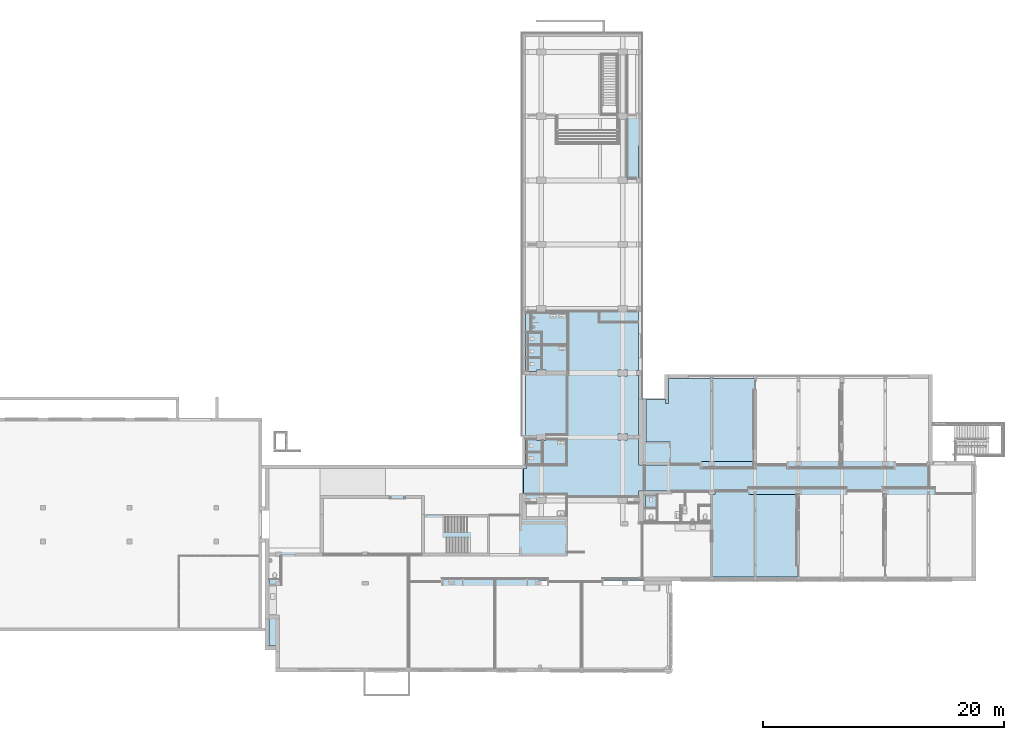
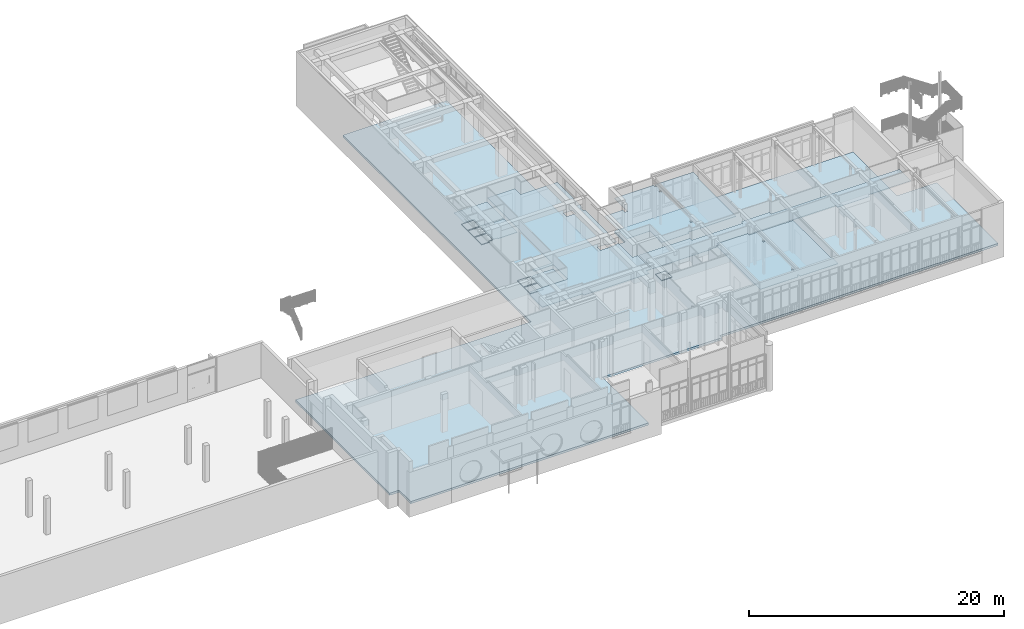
# One storey, part 72 of 135: 14 slabs.
"""IFC2X3 building model written with IfcOpenShell, lengths in millimetres."""

from ifc_helpers import new_model, entity, si_unit, converted_unit, derived_unit, money_unit, direction, frame, origin_with_axes, place, context, subcontext, project, spatial, faceted_brep, material, type_object, element, save


model = new_model("IFC2X3")

# Units and contexts
model_context = context("Model", 3, precision=0.01, world=origin_with_axes(), true_north=direction((0.0, 1.0)))
body_context = subcontext(model_context, "Body", "Model", "MODEL_VIEW")
ifc_project = project(units=[si_unit("LENGTHUNIT", "METRE", prefix="MILLI"), si_unit("AREAUNIT", "SQUARE_METRE"), si_unit("VOLUMEUNIT", "CUBIC_METRE"), converted_unit("PLANEANGLEUNIT", "DEGREE", entity("IfcPlaneAngleMeasure", 0.0174532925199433), si_unit("PLANEANGLEUNIT", "RADIAN"), dimensions=[0, 0, 0, 0, 0, 0, 0]), money_unit("EUR"), converted_unit("TIMEUNIT", "Year", entity("IfcTimeMeasure", 31557600.0), si_unit("TIMEUNIT", "SECOND"), dimensions=[0, 0, 1, 0, 0, 0, 0]), si_unit("MASSUNIT", "GRAM", prefix="KILO"), si_unit("THERMODYNAMICTEMPERATUREUNIT", "DEGREE_CELSIUS"), si_unit("LUMINOUSINTENSITYUNIT", "LUMEN"), si_unit("ENERGYUNIT", "JOULE", prefix="MEGA"), derived_unit("THERMALCONDUCTANCEUNIT", [(si_unit("POWERUNIT", "WATT"), 1), (si_unit("LENGTHUNIT", "METRE"), -1), (si_unit("THERMODYNAMICTEMPERATUREUNIT", "KELVIN"), -1)]), derived_unit("SPECIFICHEATCAPACITYUNIT", [(si_unit("ENERGYUNIT", "JOULE"), 1), (si_unit("MASSUNIT", "GRAM", prefix="KILO"), -1), (si_unit("THERMODYNAMICTEMPERATUREUNIT", "KELVIN"), -1)]), derived_unit("MASSDENSITYUNIT", [(si_unit("MASSUNIT", "GRAM", prefix="KILO"), 1), (si_unit("VOLUMEUNIT", "CUBIC_METRE"), -1)])], contexts=[model_context])

# Site, building, storey
site_placement = place(None, origin_with_axes())
site = spatial("IfcSite", under=ifc_project, at=site_placement, Name="Site", CompositionType="ELEMENT")
building_placement = place(site_placement, origin_with_axes())
building = spatial("IfcBuilding", under=site, at=building_placement, Name="Naam gebouw", CompositionType="ELEMENT")
storey_placement = place(building_placement, origin_with_axes())
storey = spatial("IfcBuildingStorey", under=building, at=storey_placement, Name="Begane grond N", CompositionType="ELEMENT", Elevation=0.0)

# Slabs
ifc_material_1 = material(Name="ALG - CONSTRUCTIEF VLOER")
slab_type_1 = type_object("IfcSlabType", Name="ALG Vloer 200", PredefinedType="NOTDEFINED")
slab_1_placement = place(storey_placement, frame((-770.0388143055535, 5261.796119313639, 0.0), z_axis=(0.0, 0.0, 1.0), x_axis=(1.0, 0.0, 0.0)))
element("IfcSlab", 1, at=slab_1_placement, inside=storey, type_object=slab_type_1, material=ifc_material_1, Name="_Vloer-x", PredefinedType="NOTDEFINED", context=body_context, shape_type="Brep", body=[
    faceted_brep([(0.0, 0.0, 0.0), (0.0, 0.0, -200.0), (870.0388622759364, 0.0, -200.0), (870.0388622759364, 0.0, 0.0), (0.0, 14754.11630578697, 0.0), (0.0, 14754.11630578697, -200.0), (21306.03881430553, 14754.11630578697, -200.0), (21306.03881430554, 44214.11630578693, -200.0), (30705.79457305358, 44214.11630578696, -200.0), (30676.03881430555, 22519.11630578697, -200.0), (30686.57098017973, 20499.10090675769, -200.0), (33170.03881430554, 20499.10090675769, -200.0), (33170.03881430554, 22244.11630578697, -200.0), (54770.03881430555, 22244.11630578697, -200.0), (54770.03881430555, 15329.11630578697, -200.0), (58370.03881430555, 15329.11630578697, -200.0), (58370.03881430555, 5729.116305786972, -200.0), (33170.03881430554, 5729.116305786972, -200.0), (33170.03881430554, 5395.377054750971, -200.0), (22390.03881430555, 5399.116298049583, -200.0), (22390.03881430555, -1816.127411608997, -200.0), (870.03886227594, -1816.127411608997, -200.0), (870.03886227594, -1816.127411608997, 0.0), (22390.03881430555, -1816.127411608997, 0.0), (22390.03881430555, 5399.116298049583, 0.0), (33170.03881430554, 5395.377054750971, 0.0), (33170.03881430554, 5729.116305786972, 0.0), (58370.03881430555, 5729.116305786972, 0.0), (58370.03881430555, 15329.11630578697, 0.0), (54770.03881430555, 15329.11630578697, 0.0), (54770.03881430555, 22244.11630578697, 0.0), (33170.03881430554, 22244.11630578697, 0.0), (33170.03881430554, 20499.10090675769, 0.0), (30686.57098017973, 20499.10090675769, 0.0), (30676.03881430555, 22519.11630578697, 0.0), (30705.79457305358, 44214.11630578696, 0.0), (21306.03881430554, 44214.11630578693, 0.0), (21306.03881430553, 14754.11630578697, 0.0)], [[[0, 1, 2, 3]], [[4, 5, 1, 0]], [[2, 1, 5, 6, 7, 8, 9, 10, 11, 12, 13, 14, 15, 16, 17, 18, 19, 20, 21]], [[3, 2, 21, 22]], [[4, 0, 3, 22, 23, 24, 25, 26, 27, 28, 29, 30, 31, 32, 33, 34, 35, 36, 37]], [[37, 6, 5, 4]], [[36, 7, 6, 37]], [[35, 8, 7, 36]], [[34, 9, 8, 35]], [[33, 10, 9, 34]], [[32, 11, 10, 33]], [[31, 12, 11, 32]], [[30, 13, 12, 31]], [[29, 14, 13, 30]], [[28, 15, 14, 29]], [[27, 16, 15, 28]], [[26, 17, 16, 27]], [[25, 18, 17, 26]], [[24, 19, 18, 25]], [[23, 20, 19, 24]], [[22, 21, 20, 23]]]),
])
ifc_material_2 = material(Name="ALG - BINNENAFWERKING")
slab_type_2 = type_object("IfcSlabType", Name="ALG - BINNENAFWERKING 40", PredefinedType="NOTDEFINED")
slab_2_placement = place(storey_placement, frame((29906.0, 22500.91242510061, 2690.0), z_axis=(0.0, 0.0, 1.0), x_axis=(1.0, 0.0, 0.0)))
element("IfcSlab", 2, at=slab_2_placement, inside=storey, type_object=slab_type_2, material=ifc_material_2, Name="_Vloer-x", PredefinedType="NOTDEFINED", context=body_context, shape_type="Brep", body=[
    faceted_brep([(-5902.999931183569, 0.0, 0.0), (-7660.000176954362, -0.0001196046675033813, 0.0), (-7660.000176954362, 275.0000000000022, 0.0), (-5869.457343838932, 275.0000000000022, 0.0), (-5856.957343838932, 275.0000000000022, 0.0), (-5856.957343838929, 5279.999999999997, 0.0), (-5792.187099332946, 5279.999999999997, 0.0), (-5792.187099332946, 10522.49999999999, 0.0), (-3300.000000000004, 10522.49999999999, 0.0), (-3300.000000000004, 9622.499999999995, 0.0), (0.0, 9622.499999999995, 0.0), (0.0, 5654.999999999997, 0.0), (-179.9999999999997, 5654.999999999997, 0.0), (-179.9999999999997, 5254.999999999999, 0.0), (0.000294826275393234, 5255.000131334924, 0.0), (0.0, 250.0, 0.0), (-899.99991727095, 250.0000022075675, 0.0), (-900.0000000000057, 375.0, 0.0), (-1700.000000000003, 375.0, 0.0), (-1700.000000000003, -125.0, 0.0), (-900.0000000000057, -125.0, 0.0), (-899.9996908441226, -0.000572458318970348, 0.0), (0.0, 0.0, 0.0), (0.0, -2199.999983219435, 0.0), (450.9999999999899, -2199.999983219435, 0.0), (450.9999999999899, -4350.000000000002, 0.0), (23.1870993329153, -4350.000000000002, 0.0), (23.1870993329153, -4772.499999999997, 0.0), (-5903.000000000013, -4772.499999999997, 0.0), (-5903.000000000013, -4588.661198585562, 0.0), (-5903.000000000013, -4576.16119858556, 0.0), (-9532.00000000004, -4576.16119858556, 0.0), (-9532.00000000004, -2485.581079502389, 0.0), (-9315.01098793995, -2484.998239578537, 0.0), (-9315.01098793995, -2237.498153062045, 0.0), (-5902.999931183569, -2237.498153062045, 0.0), (-1710.000000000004, 5717.499999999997, 0.0), (-1710.000000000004, 5192.499999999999, 0.0), (-890.0000000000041, 5192.499999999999, 0.0), (-890.0000000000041, 5717.499999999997, 0.0), (-5902.999931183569, 0.0, 40.00000000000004), (-7660.000176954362, -0.0001196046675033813, 40.00000000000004), (-7660.000176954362, 275.0000000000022, 40.00000000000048), (-5869.457343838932, 275.0000000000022, 40.00000000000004), (-5856.957343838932, 275.0000000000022, 40.00000000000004), (-5856.957343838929, 5279.999999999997, 40.00000000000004), (-5792.187099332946, 5279.999999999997, 40.00000000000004), (-5792.187099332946, 10522.49999999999, 40.00000000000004), (-3300.000000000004, 10522.49999999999, 40.00000000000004), (-3300.000000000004, 9622.499999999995, 40.00000000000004), (0.0, 9622.499999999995, 40.00000000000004), (0.0, 5654.999999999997, 40.00000000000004), (-179.9999999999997, 5654.999999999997, 40.00000000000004), (-179.9999999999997, 5254.999999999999, 40.00000000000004), (0.000294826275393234, 5255.000131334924, 40.00000000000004), (0.0, 250.0, 40.00000000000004), (-899.99991727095, 250.0000022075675, 40.00000000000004), (-900.0000000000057, 375.0, 40.00000000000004), (-1700.000000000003, 375.0, 40.00000000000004), (-1700.000000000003, -125.0, 40.00000000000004), (-900.0000000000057, -125.0, 40.00000000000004), (-899.9996908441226, -0.000572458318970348, 40.00000000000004), (0.0, 0.0, 40.00000000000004), (0.0, -2199.999983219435, 40.00000000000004), (450.9999999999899, -2199.999983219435, 40.00000000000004), (450.9999999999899, -4350.000000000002, 40.00000000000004), (23.1870993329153, -4350.000000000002, 40.00000000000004), (23.1870993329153, -4772.499999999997, 40.00000000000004), (-5903.000000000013, -4772.499999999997, 40.00000000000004), (-5903.000000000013, -4588.661198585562, 40.00000000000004), (-5903.000000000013, -4576.16119858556, 40.00000000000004), (-9532.00000000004, -4576.16119858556, 40.00000000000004), (-9532.00000000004, -2485.581079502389, 40.00000000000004), (-9315.01098793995, -2484.998239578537, 40.00000000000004), (-9315.01098793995, -2237.498153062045, 40.00000000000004), (-5902.999931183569, -2237.498153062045, 40.00000000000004), (-1710.000000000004, 5717.499999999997, 40.00000000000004), (-1710.000000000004, 5192.499999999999, 40.00000000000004), (-890.0000000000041, 5192.499999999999, 40.00000000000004), (-890.0000000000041, 5717.499999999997, 40.00000000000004)], [[[0, 1, 2, 3, 4, 5, 6, 7, 8, 9, 10, 11, 12, 13, 14, 15, 16, 17, 18, 19, 20, 21, 22, 23, 24, 25, 26, 27, 28, 29, 30, 31, 32, 33, 34, 35], [36, 37, 38, 39]], [[0, 40, 41, 1]], [[1, 41, 42, 2]], [[3, 2, 42, 43]], [[44, 4, 3, 43]], [[5, 4, 44, 45]], [[46, 6, 5, 45]], [[6, 46, 47, 7]], [[7, 47, 48, 8]], [[8, 48, 49, 9]], [[9, 49, 50, 10]], [[10, 50, 51, 11]], [[11, 51, 52, 12]], [[12, 52, 53, 13]], [[13, 53, 54, 14]], [[14, 54, 55, 15]], [[15, 55, 56, 16]], [[16, 56, 57, 17]], [[17, 57, 58, 18]], [[18, 58, 59, 19]], [[19, 59, 60, 20]], [[20, 60, 61, 21]], [[21, 61, 62, 22]], [[22, 62, 63, 23]], [[23, 63, 64, 24]], [[24, 64, 65, 25]], [[25, 65, 66, 26]], [[26, 66, 67, 27]], [[27, 67, 68, 28]], [[29, 28, 68, 69]], [[70, 30, 29, 69]], [[71, 31, 30, 70]], [[31, 71, 72, 32]], [[32, 72, 73, 33]], [[33, 73, 74, 34]], [[34, 74, 75, 35]], [[35, 75, 40, 0]], [[36, 76, 77, 37]], [[37, 77, 78, 38]], [[38, 78, 79, 39]], [[39, 79, 76, 36]], [[45, 44, 43, 42, 41, 40, 75, 74, 73, 72, 71, 70, 69, 68, 67, 66, 65, 64, 63, 62, 61, 60, 59, 58, 57, 56, 55, 54, 53, 52, 51, 50, 49, 48, 47, 46], [78, 77, 76, 79]]]),
])
slab_3_placement = place(storey_placement, frame((21935.99999999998, 30318.41242510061, 2400.0), z_axis=(0.0, 0.0, 1.0), x_axis=(1.0, 0.0, 0.0)))
element("IfcSlab", 3, at=slab_3_placement, inside=storey, type_object=slab_type_2, material=ifc_material_2, Name="_Vloer-x", PredefinedType="NOTDEFINED", context=body_context, shape_type="Brep", body=[
    faceted_brep([(0.0, 0.0, 40.00000000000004), (0.0, 0.0, 0.0), (2077.81290066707, 0.0, 0.0), (2077.81290066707, 0.0, 40.00000000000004), (0.0, 1050.000000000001, 40.00000000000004), (0.0, 1050.000000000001, 0.0), (-900.0000000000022, 1050.000000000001, 0.0), (-900.0000000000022, 2604.999999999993, 0.0), (2077.81290066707, 2604.999999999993, 0.0), (2077.81290066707, 2604.999999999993, 40.00000000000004), (-900.0000000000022, 2604.999999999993, 40.00000000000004), (-900.0000000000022, 1050.000000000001, 40.00000000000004)], [[[0, 1, 2, 3]], [[4, 5, 1, 0]], [[2, 1, 5, 6, 7, 8]], [[3, 2, 8, 9]], [[4, 0, 3, 9, 10, 11]], [[11, 6, 5, 4]], [[10, 7, 6, 11]], [[9, 8, 7, 10]]]),
])
slab_4_placement = place(storey_placement, frame((22246.0, 28130.91242510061, 2400.0), z_axis=(0.0, 0.0, 1.0), x_axis=(1.0, 0.0, 0.0)))
element("IfcSlab", 4, at=slab_4_placement, inside=storey, type_object=slab_type_2, material=ifc_material_2, Name="_Vloer-x", PredefinedType="NOTDEFINED", context=body_context, shape_type="Brep", body=[
    faceted_brep([(0.0, 0.0, 40.00000000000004), (0.0, 0.0, 0.0), (1767.812900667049, 0.0, 0.0), (1767.812900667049, 0.0, 40.00000000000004), (0.0, 87.49999999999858, 40.00000000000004), (0.0, 87.49999999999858, 0.0), (-310.00000000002, 87.49999999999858, 0.0), (-310.00000000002, 2087.499999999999, 0.0), (1767.812900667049, 2087.499999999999, 0.0), (1767.812900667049, 2087.499999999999, 40.00000000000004), (-310.00000000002, 2087.499999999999, 40.00000000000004), (-310.00000000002, 87.49999999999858, 40.00000000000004)], [[[0, 1, 2, 3]], [[4, 5, 1, 0]], [[2, 1, 5, 6, 7, 8]], [[3, 2, 8, 9]], [[4, 0, 3, 9, 10, 11]], [[11, 6, 5, 4]], [[10, 7, 6, 11]], [[9, 8, 7, 10]]]),
])
slab_5_placement = place(storey_placement, frame((20735.99999999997, 30318.41242510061, 2400.0), z_axis=(0.0, 0.0, 1.0), x_axis=(1.0, 0.0, 0.0)))
element("IfcSlab", 5, at=slab_5_placement, inside=storey, type_object=slab_type_2, material=ifc_material_2, Name="_Vloer-x", PredefinedType="NOTDEFINED", context=body_context, shape_type="Brep", body=[
    faceted_brep([(0.0, 0.0, 40.00000000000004), (0.0, 0.0, 0.0), (1100.000000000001, 0.0, 0.0), (1100.000000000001, 0.0, 40.00000000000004), (0.0, 949.9999999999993, 40.00000000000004), (0.0, 949.9999999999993, 0.0), (1100.000000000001, 949.9999999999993, 0.0), (1100.000000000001, 949.9999999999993, 40.00000000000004)], [[[0, 1, 2, 3]], [[4, 5, 1, 0]], [[2, 1, 5, 6]], [[3, 2, 6, 7]], [[4, 0, 3, 7]], [[7, 6, 5, 4]]]),
])
slab_6_placement = place(storey_placement, frame((20735.99999999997, 30218.41242510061, 2400.0), z_axis=(0.0, 0.0, 1.0), x_axis=(1.0, 0.0, 0.0)))
element("IfcSlab", 6, at=slab_6_placement, inside=storey, type_object=slab_type_2, material=ifc_material_2, Name="_Vloer-x", PredefinedType="NOTDEFINED", context=body_context, shape_type="Brep", body=[
    faceted_brep([(0.0, 0.0, 40.00000000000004), (0.0, 0.0, 0.0), (0.0, -949.9999999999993, 0.0), (0.0, -949.9999999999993, 40.00000000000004), (1100.000000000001, 0.0, 40.00000000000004), (1100.000000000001, 0.0, 0.0), (1100.000000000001, -949.9999999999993, 0.0), (1100.000000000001, -949.9999999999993, 40.00000000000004)], [[[0, 1, 2, 3]], [[4, 5, 1, 0]], [[2, 1, 5, 6]], [[3, 2, 6, 7]], [[4, 0, 3, 7]], [[7, 6, 5, 4]]]),
])
slab_7_placement = place(storey_placement, frame((20735.99999999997, 28080.91242510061, 2400.0), z_axis=(0.0, 0.0, 1.0), x_axis=(1.0, 0.0, 0.0)))
element("IfcSlab", 7, at=slab_7_placement, inside=storey, type_object=slab_type_2, material=ifc_material_2, Name="_Vloer-x", PredefinedType="NOTDEFINED", context=body_context, shape_type="Brep", body=[
    faceted_brep([(0.0, 0.0, 40.00000000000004), (0.0, 0.0, 0.0), (690.0000000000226, 0.0, 0.0), (690.0000000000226, 0.0, 40.00000000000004), (0.0, 1087.499999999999, 40.00000000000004), (0.0, 1087.499999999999, 0.0), (1100.000000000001, 1087.499999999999, 0.0), (1100.000000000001, 137.4999999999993, 0.0), (690.0000000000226, 137.4999999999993, 0.0), (690.0000000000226, 137.4999999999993, 40.00000000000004), (1100.000000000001, 137.4999999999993, 40.00000000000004), (1100.000000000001, 1087.499999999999, 40.00000000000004)], [[[0, 1, 2, 3]], [[4, 5, 1, 0]], [[2, 1, 5, 6, 7, 8]], [[3, 2, 8, 9]], [[4, 0, 3, 9, 10, 11]], [[11, 6, 5, 4]], [[10, 7, 6, 11]], [[9, 8, 7, 10]]]),
])
slab_8_placement = place(storey_placement, frame((21985.99999999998, 20363.41242510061, 2400.0), z_axis=(0.0, 0.0, 1.0), x_axis=(1.0, 0.0, 0.0)))
element("IfcSlab", 8, at=slab_8_placement, inside=storey, type_object=slab_type_2, material=ifc_material_2, Name="_Vloer-x", PredefinedType="NOTDEFINED", context=body_context, shape_type="Brep", body=[
    faceted_brep([(0.0, 0.0, 40.00000000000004), (0.0, 0.0, 0.0), (1917.000068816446, 0.0, 0.0), (1917.000068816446, 0.0, 40.00000000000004), (0.0, 2000.0, 40.00000000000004), (0.0, 2000.0, 0.0), (260.0000000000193, 2000.0, 0.0), (259.9999790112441, 2037.499988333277, 0.0), (1917.000068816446, 2037.499988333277, 0.0), (1917.000068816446, 2037.499988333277, 40.00000000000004), (259.9999790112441, 2037.499988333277, 40.00000000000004), (260.0000000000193, 2000.0, 40.00000000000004)], [[[0, 1, 2, 3]], [[4, 5, 1, 0]], [[2, 1, 5, 6, 7, 8]], [[3, 2, 8, 9]], [[4, 0, 3, 9, 10, 11]], [[11, 6, 5, 4]], [[10, 7, 6, 11]], [[9, 8, 7, 10]]]),
])
slab_9_placement = place(storey_placement, frame((20685.99999999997, 21313.41242510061, 2400.0), z_axis=(0.0, 0.0, 1.0), x_axis=(1.0, 0.0, 0.0)))
element("IfcSlab", 9, at=slab_9_placement, inside=storey, type_object=slab_type_2, material=ifc_material_2, Name="_Vloer-x", PredefinedType="NOTDEFINED", context=body_context, shape_type="Brep", body=[
    faceted_brep([(0.0, 0.0, 40.00000000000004), (0.0, 0.0, 0.0), (0.0, -949.9999999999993, 0.0), (0.0, -949.9999999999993, 40.00000000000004), (1200.000000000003, 0.0, 40.00000000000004), (1200.000000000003, 0.0, 0.0), (1200.000000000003, -949.9999999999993, 0.0), (1200.000000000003, -949.9999999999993, 40.00000000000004)], [[[0, 1, 2, 3]], [[4, 5, 1, 0]], [[2, 1, 5, 6]], [[3, 2, 6, 7]], [[4, 0, 3, 7]], [[7, 6, 5, 4]]]),
])
slab_10_placement = place(storey_placement, frame((20685.99999999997, 22400.91242510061, 2400.0), z_axis=(0.0, 0.0, 1.0), x_axis=(1.0, 0.0, 0.0)))
element("IfcSlab", 10, at=slab_10_placement, inside=storey, type_object=slab_type_2, material=ifc_material_2, Name="_Vloer-x", PredefinedType="NOTDEFINED", context=body_context, shape_type="Brep", body=[
    faceted_brep([(0.0, 0.0, 40.00000000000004), (0.0, 0.0, 0.0), (0.0, -987.4999999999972, 0.0), (0.0, -987.4999999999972, 40.00000000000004), (739.9999937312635, 0.0, 40.00000000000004), (739.9999937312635, 0.0, 0.0), (740.0000000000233, -37.49999999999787, 0.0), (1200.000000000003, -37.49999999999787, 0.0), (1200.000000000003, -987.4999999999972, 0.0), (1200.000000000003, -987.4999999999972, 40.00000000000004), (1200.000000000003, -37.49999999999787, 40.00000000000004), (740.0000000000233, -37.49999999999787, 40.00000000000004)], [[[0, 1, 2, 3]], [[4, 5, 1, 0]], [[2, 1, 5, 6, 7, 8]], [[3, 2, 8, 9]], [[4, 0, 3, 9, 10, 11]], [[11, 6, 5, 4]], [[10, 7, 6, 11]], [[9, 8, 7, 10]]]),
])
slab_11_placement = place(storey_placement, frame((30525.0, 22206.91242510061, 3100.0), z_axis=(0.0, 0.0, 1.0), x_axis=(1.0, 0.0, 0.0)))
element("IfcSlab", 11, at=slab_11_placement, inside=storey, type_object=slab_type_2, material=ifc_material_2, Name="_Vloer-x", PredefinedType="NOTDEFINED", context=body_context, shape_type="Brep", body=[
    faceted_brep([(5414.999999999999, -560.9999999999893, 39.99999999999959), (5534.999999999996, -561.000000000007, 40.00000000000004), (5534.999999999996, -440.999999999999, 39.99999999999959), (5414.999999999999, -440.999999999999, 39.99999999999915), (5414.999999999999, -560.9999999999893, 0.0), (5534.999999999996, -561.000000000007, 0.0), (5534.999999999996, -440.999999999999, 0.0), (5414.999999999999, -440.999999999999, 0.0)], [[[0, 1, 2, 3]], [[4, 5, 1, 0]], [[5, 6, 2, 1]], [[3, 2, 6, 7]], [[7, 4, 0, 3]], [[7, 6, 5, 4]]]),
    faceted_brep([(5414.999999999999, 4214.000000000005, 39.99999999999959), (5534.999999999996, 4213.999999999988, 40.00000000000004), (5534.999999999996, 4333.999999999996, 39.99999999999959), (5414.999999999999, 4333.999999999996, 39.99999999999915), (5414.999999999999, 4214.000000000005, 0.0), (5534.999999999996, 4213.999999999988, 0.0), (5534.999999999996, 4333.999999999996, 0.0), (5414.999999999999, 4333.999999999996, 0.0)], [[[0, 1, 2, 3]], [[4, 5, 1, 0]], [[5, 6, 2, 1]], [[3, 2, 6, 7]], [[7, 4, 0, 3]], [[7, 6, 5, 4]]]),
    faceted_brep([(5560.000000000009, 4358.999999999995, 0.0), (5559.999999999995, 4333.999999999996, 0.0), (5559.999999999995, 4333.999999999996, 40.00000000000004), (5560.000000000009, 4358.999999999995, 40.00000000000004), (2056.117064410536, -1806.000000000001, 0.0), (2056.117064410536, -1656.000000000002, 0.0), (2056.117064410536, -100.0000000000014, 0.0), (2056.117064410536, 0.0, 0.0), (1956.117064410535, 0.0, 0.0), (0.0, 0.0, 0.0), (0.0, 3553.984600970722, 0.0), (1624.999999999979, 3553.984600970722, 0.0), (1624.999999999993, 3214.000000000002, 0.0), (1874.999999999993, 3214.000000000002, 0.0), (1874.999999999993, 5299.000000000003, 0.0), (5400.000000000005, 5299.000000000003, 0.0), (5400.000000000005, 5044.000000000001, 0.0), (5550.000000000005, 5044.000000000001, 0.0), (5550.000000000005, 5299.000000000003, 0.0), (9000.00000000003, 5299.000000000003, 0.0), (9000.00000000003, 4358.999999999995, 0.0), (8899.999999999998, 4358.999999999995, 0.0), (8899.999999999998, -1626.000000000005, 0.0), (4560.000000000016, -1626.000000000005, 0.0), (4560.000000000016, -1806.000000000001, 0.0), (5559.999999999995, -585.9999999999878, 0.0), (5559.999999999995, -561.000000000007, 0.0), (5559.999999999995, -440.999999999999, 0.0), (5560.000000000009, -416.0000000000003, 0.0), (5414.999999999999, -416.0000000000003, 0.0), (5390.000000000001, -416.0000000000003, 0.0), (5390.000000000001, -585.9999999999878, 0.0), (5414.999999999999, -585.9999999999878, 0.0), (5559.999999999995, 4189.000000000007, 0.0), (5559.999999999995, 4213.999999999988, 0.0), (5414.999999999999, 4358.999999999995, 0.0), (5390.000000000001, 4358.999999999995, 0.0), (5390.000000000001, 4189.000000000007, 0.0), (5414.999999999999, 4189.000000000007, 0.0), (5559.999999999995, 4213.999999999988, 40.00000000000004), (2056.117064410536, 0.0, 40.00000000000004), (2056.117064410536, -100.0000000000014, 40.00000000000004), (2056.117064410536, -1656.000000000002, 40.00000000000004), (2056.117064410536, -1806.000000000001, 40.00000000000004), (4560.000000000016, -1806.000000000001, 40.00000000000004), (4560.000000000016, -1626.000000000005, 40.00000000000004), (8899.999999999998, -1626.000000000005, 40.00000000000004), (8899.999999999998, 4358.999999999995, 40.00000000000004), (9000.00000000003, 4358.999999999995, 40.00000000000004), (9000.00000000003, 5299.000000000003, 40.00000000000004), (5550.000000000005, 5299.000000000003, 40.00000000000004), (5550.000000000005, 5044.000000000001, 40.00000000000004), (5400.000000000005, 5044.000000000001, 40.00000000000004), (5400.000000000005, 5299.000000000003, 40.00000000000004), (1874.999999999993, 5299.000000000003, 40.00000000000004), (1874.999999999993, 3214.000000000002, 40.00000000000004), (1624.999999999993, 3214.000000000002, 40.00000000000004), (1624.999999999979, 3553.984600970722, 40.00000000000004), (0.0, 3553.984600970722, 40.00000000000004), (0.0, 0.0, 40.00000000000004), (1956.117064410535, 0.0, 40.00000000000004), (5560.000000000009, -416.0000000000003, 40.00000000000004), (5559.999999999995, -440.999999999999, 40.00000000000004), (5559.999999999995, -561.000000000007, 40.00000000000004), (5559.999999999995, -585.9999999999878, 40.00000000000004), (5414.999999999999, -585.9999999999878, 40.00000000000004), (5390.000000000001, -585.9999999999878, 40.00000000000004), (5390.000000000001, -416.0000000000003, 40.00000000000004), (5414.999999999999, -416.0000000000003, 40.00000000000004), (5559.999999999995, 4189.000000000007, 40.00000000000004), (5414.999999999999, 4189.000000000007, 40.00000000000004), (5390.000000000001, 4189.000000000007, 40.00000000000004), (5390.000000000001, 4358.999999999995, 40.00000000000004), (5414.999999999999, 4358.999999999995, 40.00000000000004)], [[[0, 1, 2, 3]], [[4, 5, 6, 7, 8, 9, 10, 11, 12, 13, 14, 15, 16, 17, 18, 19, 20, 21, 22, 23, 24], [25, 26, 27, 28, 29, 30, 31, 32], [33, 34, 1, 0, 35, 36, 37, 38]], [[34, 39, 2, 1]], [[40, 41, 42, 43, 44, 45, 46, 47, 48, 49, 50, 51, 52, 53, 54, 55, 56, 57, 58, 59, 60], [61, 62, 63, 64, 65, 66, 67, 68], [3, 2, 39, 69, 70, 71, 72, 73]], [[0, 3, 73, 35]], [[43, 42, 5, 4]], [[5, 42, 41, 6]], [[7, 6, 41, 40]], [[7, 40, 60, 8]], [[9, 8, 60, 59]], [[59, 58, 10, 9]], [[58, 57, 11, 10]], [[57, 56, 12, 11]], [[56, 55, 13, 12]], [[55, 54, 14, 13]], [[54, 53, 15, 14]], [[53, 52, 16, 15]], [[52, 51, 17, 16]], [[51, 50, 18, 17]], [[50, 49, 19, 18]], [[49, 48, 20, 19]], [[48, 47, 21, 20]], [[47, 46, 22, 21]], [[46, 45, 23, 22]], [[45, 44, 24, 23]], [[44, 43, 4, 24]], [[64, 63, 26, 25]], [[26, 63, 62, 27]], [[28, 27, 62, 61]], [[28, 61, 68, 29]], [[30, 29, 68, 67]], [[30, 67, 66, 31]], [[66, 65, 32, 31]], [[32, 65, 64, 25]], [[69, 39, 34, 33]], [[36, 35, 73, 72]], [[36, 72, 71, 37]], [[71, 70, 38, 37]], [[38, 70, 69, 33]]]),
])
slab_12_placement = place(storey_placement, frame((35085.00000000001, 20300.91242510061, 2690.0), z_axis=(0.0, 0.0, 1.0), x_axis=(1.0, 0.0, 0.0)))
element("IfcSlab", 12, at=slab_12_placement, inside=storey, type_object=slab_type_2, material=ifc_material_2, Name="_Vloer-x", PredefinedType="NOTDEFINED", context=body_context, shape_type="Brep", body=[
    faceted_brep([(15044.99999999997, -1855.000000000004, 40.00000000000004), (18914.99999999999, -1855.000000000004, 40.00000000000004), (18914.99999999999, -44.99999999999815, 40.00000000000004), (16130.0, -44.99999999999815, 40.00000000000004), (16130.0, -294.9999999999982, 40.00000000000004), (7162.499999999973, -294.9999999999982, 40.00000000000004), (7162.499999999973, -44.99999999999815, 40.00000000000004), (4590.000000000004, -44.99999999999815, 40.00000000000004), (4590.000000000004, -294.9999999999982, 40.00000000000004), (0.0, -294.9999999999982, 40.00000000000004), (0.0, 0.0, 40.00000000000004), (-4628.000000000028, 0.0, 40.00000000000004), (-4628.000000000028, -2149.999999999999, 40.00000000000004), (632.499999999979, -2149.999999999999, 40.00000000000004), (632.499999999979, -2105.0, 40.00000000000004), (3944.999999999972, -2105.0, 40.00000000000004), (3944.999999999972, -1855.0, 40.00000000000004), (12134.99999999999, -1855.0, 40.00000000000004), (12134.99999999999, -2105.0, 40.00000000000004), (15044.99999999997, -2105.0, 40.00000000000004), (15044.99999999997, -1855.000000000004, 0.0), (18914.99999999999, -1855.000000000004, 0.0), (18914.99999999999, -44.99999999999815, 0.0), (16130.0, -44.99999999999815, 0.0), (16130.0, -294.9999999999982, 0.0), (7162.499999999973, -294.9999999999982, 0.0), (7162.499999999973, -44.99999999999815, 0.0), (4590.000000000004, -44.99999999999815, 0.0), (4590.000000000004, -294.9999999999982, 0.0), (0.0, -294.9999999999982, 0.0), (0.0, 0.0, 0.0), (-4628.000000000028, 0.0, 0.0), (-4628.000000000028, -2149.999999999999, 0.0), (632.499999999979, -2149.999999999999, 0.0), (632.499999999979, -2105.0, 0.0), (3944.999999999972, -2105.0, 0.0), (3944.999999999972, -1855.0, 0.0), (12134.99999999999, -1855.0, 0.0), (12134.99999999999, -2105.0, 0.0), (15044.99999999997, -2105.0, 0.0)], [[[0, 1, 2, 3, 4, 5, 6, 7, 8, 9, 10, 11, 12, 13, 14, 15, 16, 17, 18, 19]], [[20, 21, 1, 0]], [[21, 22, 2, 1]], [[3, 2, 22, 23]], [[4, 3, 23, 24]], [[5, 4, 24, 25]], [[6, 5, 25, 26]], [[7, 6, 26, 27]], [[8, 7, 27, 28]], [[9, 8, 28, 29]], [[10, 9, 29, 30]], [[11, 10, 30, 31]], [[12, 11, 31, 32]], [[13, 12, 32, 33]], [[14, 13, 33, 34]], [[15, 14, 34, 35]], [[16, 15, 35, 36]], [[17, 16, 36, 37]], [[18, 17, 37, 38]], [[19, 18, 38, 39]], [[0, 19, 39, 20]], [[23, 22, 21, 20, 39, 38, 37, 36, 35, 34, 33, 32, 31, 30, 29, 28, 27, 26, 25, 24]]]),
])
slab_13_placement = place(storey_placement, frame((36270.00000536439, 17870.91239447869, 3100.0), z_axis=(0.0, 0.0, 1.0), x_axis=(1.0, 0.0, 0.0)))
element("IfcSlab", 13, at=slab_13_placement, inside=storey, type_object=slab_type_2, material=ifc_material_2, Name="_Vloer-x", PredefinedType="NOTDEFINED", context=body_context, shape_type="Brep", body=[
    faceted_brep([(3269.999994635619, -1369.999969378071, 40.00000000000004), (3389.999994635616, -1369.999969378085, 40.00000000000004), (3389.999994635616, -1249.999969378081, 40.00000000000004), (3269.999994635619, -1249.999969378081, 39.99999999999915), (3269.999994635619, -1369.999969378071, 0.0), (3389.999994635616, -1369.999969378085, 0.0), (3389.999994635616, -1249.999969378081, 0.0), (3269.999994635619, -1249.999969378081, 0.0)], [[[0, 1, 2, 3]], [[4, 5, 1, 0]], [[5, 6, 2, 1]], [[3, 2, 6, 7]], [[7, 4, 0, 3]], [[7, 6, 5, 4]]]),
    faceted_brep([(3269.999994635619, -5914.999969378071, 40.00000000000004), (3389.999994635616, -5914.999969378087, 40.00000000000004), (3389.999994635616, -5794.999969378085, 40.00000000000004), (3269.999994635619, -5794.999969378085, 39.99999999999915), (3269.999994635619, -5914.999969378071, 0.0), (3389.999994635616, -5914.999969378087, 0.0), (3389.999994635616, -5794.999969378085, 0.0), (3269.999994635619, -5794.999969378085, 0.0)], [[[0, 1, 2, 3]], [[4, 5, 1, 0]], [[5, 6, 2, 1]], [[3, 2, 6, 7]], [[7, 4, 0, 3]], [[7, 6, 5, 4]]]),
    faceted_brep([(3414.999994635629, -5769.999969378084, 0.0), (3414.999994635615, -5794.999969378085, 0.0), (3414.999994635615, -5794.999969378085, 40.00000000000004), (3414.999994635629, -5769.999969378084, 40.00000000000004), (-195.0000053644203, -6879.999969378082, 0.0), (-195.0000053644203, 0.0, 0.0), (0.0, 0.0, 0.0), (0.0, 225.0000306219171, 0.0), (2759.99999448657, 225.0000306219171, 0.0), (2759.99999448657, 0.0, 0.0), (6754.999994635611, 0.0, 0.0), (6754.999994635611, -5939.999919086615, 0.0), (6855.000001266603, -5939.999919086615, 0.0), (6855.000001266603, -6879.999969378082, 0.0), (3404.999955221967, -6879.999969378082, 0.0), (3404.999955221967, -6669.999969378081, 0.0), (3255.000040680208, -6669.999969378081, 0.0), (3255.000040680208, -6879.999969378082, 0.0), (3414.999994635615, -1394.99996937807, 0.0), (3414.999994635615, -1369.999969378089, 0.0), (3414.999994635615, -1249.999969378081, 0.0), (3414.999994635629, -1224.999969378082, 0.0), (3269.999994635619, -1224.999969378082, 0.0), (3244.99999463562, -1224.999969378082, 0.0), (3244.99999463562, -1394.99996937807, 0.0), (3269.999994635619, -1394.99996937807, 0.0), (3414.999994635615, -5939.999969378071, 0.0), (3414.999994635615, -5914.999969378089, 0.0), (3269.999994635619, -5769.999969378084, 0.0), (3244.99999463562, -5769.999969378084, 0.0), (3244.99999463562, -5939.999969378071, 0.0), (3269.999994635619, -5939.999969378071, 0.0), (3414.999994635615, -5914.999969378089, 40.00000000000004), (2759.99999448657, 225.0000306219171, 40.00000000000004), (0.0, 225.0000306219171, 40.00000000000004), (0.0, 0.0, 40.00000000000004), (-195.0000053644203, 0.0, 40.00000000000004), (-195.0000053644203, -6879.999969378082, 40.00000000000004), (3255.000040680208, -6879.999969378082, 40.00000000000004), (3255.000040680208, -6669.999969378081, 40.00000000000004), (3404.999955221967, -6669.999969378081, 40.00000000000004), (3404.999955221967, -6879.999969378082, 40.00000000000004), (6855.000001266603, -6879.999969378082, 40.00000000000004), (6855.000001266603, -5939.999919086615, 40.00000000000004), (6754.999994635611, -5939.999919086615, 40.00000000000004), (6754.999994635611, 0.0, 40.00000000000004), (2759.99999448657, 0.0, 40.00000000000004), (3414.999994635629, -1224.999969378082, 40.00000000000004), (3414.999994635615, -1249.999969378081, 40.00000000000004), (3414.999994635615, -1369.999969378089, 40.00000000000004), (3414.999994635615, -1394.99996937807, 40.00000000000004), (3269.999994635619, -1394.99996937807, 40.00000000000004), (3244.99999463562, -1394.99996937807, 40.00000000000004), (3244.99999463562, -1224.999969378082, 40.00000000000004), (3269.999994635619, -1224.999969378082, 40.00000000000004), (3414.999994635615, -5939.999969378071, 40.00000000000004), (3269.999994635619, -5939.999969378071, 40.00000000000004), (3244.99999463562, -5939.999969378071, 40.00000000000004), (3244.99999463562, -5769.999969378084, 40.00000000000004), (3269.999994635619, -5769.999969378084, 40.00000000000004)], [[[0, 1, 2, 3]], [[4, 5, 6, 7, 8, 9, 10, 11, 12, 13, 14, 15, 16, 17], [18, 19, 20, 21, 22, 23, 24, 25], [26, 27, 1, 0, 28, 29, 30, 31]], [[27, 32, 2, 1]], [[33, 34, 35, 36, 37, 38, 39, 40, 41, 42, 43, 44, 45, 46], [47, 48, 49, 50, 51, 52, 53, 54], [3, 2, 32, 55, 56, 57, 58, 59]], [[0, 3, 59, 28]], [[37, 36, 5, 4]], [[36, 35, 6, 5]], [[35, 34, 7, 6]], [[34, 33, 8, 7]], [[33, 46, 9, 8]], [[46, 45, 10, 9]], [[45, 44, 11, 10]], [[44, 43, 12, 11]], [[43, 42, 13, 12]], [[42, 41, 14, 13]], [[41, 40, 15, 14]], [[40, 39, 16, 15]], [[39, 38, 17, 16]], [[38, 37, 4, 17]], [[50, 49, 19, 18]], [[19, 49, 48, 20]], [[21, 20, 48, 47]], [[21, 47, 54, 22]], [[23, 22, 54, 53]], [[23, 53, 52, 24]], [[52, 51, 25, 24]], [[25, 51, 50, 18]], [[55, 32, 27, 26]], [[29, 28, 59, 58]], [[29, 58, 57, 30]], [[57, 56, 31, 30]], [[31, 56, 55, 26]]]),
])
slab_14_placement = place(storey_placement, frame((30479.18709933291, 16770.91242510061, 2400.0), z_axis=(0.0, 0.0, 1.0), x_axis=(1.0, 0.0, 0.0)))
element("IfcSlab", 14, at=slab_14_placement, inside=storey, type_object=slab_type_2, material=ifc_material_2, Name="_Vloer-x", PredefinedType="NOTDEFINED", context=body_context, shape_type="Brep", body=[
    faceted_brep([(0.0, 0.0, 40.00000000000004), (0.0, 0.0, 0.0), (949.9999953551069, 0.0, 0.0), (949.9999953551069, 0.0, 40.00000000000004), (0.0, 980.0000000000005, 40.00000000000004), (0.0, 980.0000000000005, 0.0), (949.9999953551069, 980.0000000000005, 0.0), (949.9999953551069, 980.0000000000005, 40.00000000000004)], [[[0, 1, 2, 3]], [[4, 5, 1, 0]], [[2, 1, 5, 6]], [[3, 2, 6, 7]], [[4, 0, 3, 7]], [[7, 6, 5, 4]]]),
])

save(model, "model.ifc")
